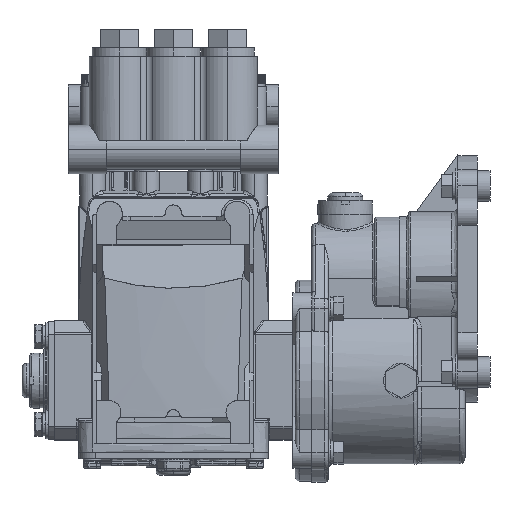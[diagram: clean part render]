
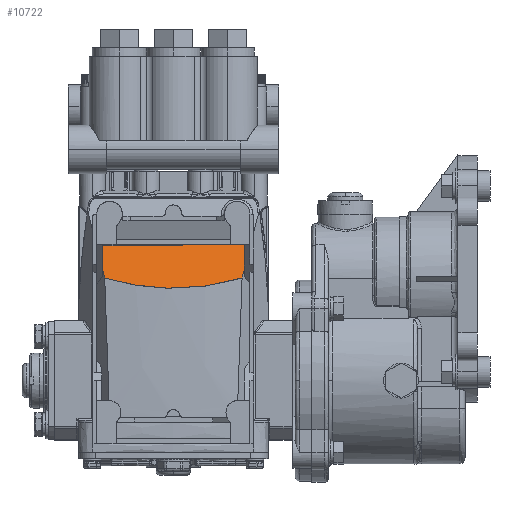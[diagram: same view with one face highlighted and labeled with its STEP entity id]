
A CAD part, front view. The second image highlights one B-rep face of the part: STEP entity #10722.
In plain terms, the highlighted planar face has unit normal (0, 0.94, -0.342).
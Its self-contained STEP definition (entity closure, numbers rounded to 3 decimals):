
#384 = LINE ( 'NONE', #119872, #68377 ) ;
#3209 = CARTESIAN_POINT ( 'NONE',  ( 188.625, 109.412, 145.675 ) ) ;
#5668 = CARTESIAN_POINT ( 'NONE',  ( 131.171, 106.278, 137.064 ) ) ;
#6720 = EDGE_CURVE ( 'NONE', #84428, #141840, #166433, .T. ) ;
#10722 = ADVANCED_FACE ( 'NONE', ( #148854 ), #162769, .T. ) ;
#11525 = EDGE_CURVE ( 'NONE', #51863, #54223, #40140, .T. ) ;
#14098 = VECTOR ( 'NONE', #49055, 1000. ) ;
#16045 = LINE ( 'NONE', #161887, #43545 ) ;
#18357 = VERTEX_POINT ( 'NONE', #141425 ) ;
#18973 = CARTESIAN_POINT ( 'NONE',  ( 101.035, 116.425, 164.941 ) ) ;
#21847 = CARTESIAN_POINT ( 'NONE',  ( 190.035, 112.068, 152.97 ) ) ;
#22422 = CARTESIAN_POINT ( 'NONE',  ( 190.035, 116.348, 164.732 ) ) ;
#23977 = DIRECTION ( 'NONE',  ( -1., 0., 0. ) ) ;
#26818 = ORIENTED_EDGE ( 'NONE', *, *, #29385, .T. ) ;
#29252 = LINE ( 'NONE', #120180, #175810 ) ;
#29385 = EDGE_CURVE ( 'NONE', #54223, #18357, #58352, .T. ) ;
#31800 = ORIENTED_EDGE ( 'NONE', *, *, #110379, .T. ) ;
#33276 = LINE ( 'NONE', #105896, #173562 ) ;
#40140 = LINE ( 'NONE', #159059, #152771 ) ;
#43545 = VECTOR ( 'NONE', #133411, 1000. ) ;
#48975 = VERTEX_POINT ( 'NONE', #22422 ) ;
#49055 = DIRECTION ( 'NONE',  ( 0., -0.342, -0.94 ) ) ;
#51863 = VERTEX_POINT ( 'NONE', #71383 ) ;
#52388 = ORIENTED_EDGE ( 'NONE', *, *, #121585, .T. ) ;
#53949 = ORIENTED_EDGE ( 'NONE', *, *, #160065, .T. ) ;
#54223 = VERTEX_POINT ( 'NONE', #18973 ) ;
#57073 = ORIENTED_EDGE ( 'NONE', *, *, #6720, .T. ) ;
#57137 = EDGE_LOOP ( 'NONE', ( #57073, #160904, #65605, #26818, #53949, #152641, #52388, #86057, #31800 ) ) ;
#57376 = DIRECTION ( 'NONE',  ( -0.233, 0.333, 0.914 ) ) ;
#58121 = VERTEX_POINT ( 'NONE', #153438 ) ;
#58352 = LINE ( 'NONE', #138153, #111514 ) ;
#60753 = CARTESIAN_POINT ( 'NONE',  ( 190.035, 111.426, 151.208 ) ) ;
#65605 = ORIENTED_EDGE ( 'NONE', *, *, #11525, .T. ) ;
#68377 = VECTOR ( 'NONE', #90721, 1000. ) ;
#71383 = CARTESIAN_POINT ( 'NONE',  ( 101.035, 111.426, 151.208 ) ) ;
#73755 = DIRECTION ( 'NONE',  ( 1., 0., 0. ) ) ;
#80320 = CARTESIAN_POINT ( 'NONE',  ( 193.508, 116.386, 164.837 ) ) ;
#83101 = VERTEX_POINT ( 'NONE', #60753 ) ;
#84428 = VERTEX_POINT ( 'NONE', #3209 ) ;
#86057 = ORIENTED_EDGE ( 'NONE', *, *, #168105, .T. ) ;
#87219 = AXIS2_PLACEMENT_3D ( 'NONE', #147349, #93308, #135470 ) ;
#90721 = DIRECTION ( 'NONE',  ( -0.233, -0.333, -0.914 ) ) ;
#93308 = DIRECTION ( 'NONE',  ( 0., 0.94, -0.342 ) ) ;
#98321 = CARTESIAN_POINT ( 'NONE',  ( 102.445, 109.412, 145.675 ) ) ;
#105561 = LINE ( 'NONE', #98321, #135399 ) ;
#105896 = CARTESIAN_POINT ( 'NONE',  ( 145.247, 117.111, 166.828 ) ) ;
#107270 = EDGE_CURVE ( 'NONE', #58121, #167689, #16045, .T. ) ;
#110379 = EDGE_CURVE ( 'NONE', #83101, #84428, #384, .T. ) ;
#111514 = VECTOR ( 'NONE', #139900, 1000. ) ;
#113734 = CARTESIAN_POINT ( 'NONE',  ( 188.625, 109.412, 145.675 ) ) ;
#115531 = EDGE_CURVE ( 'NONE', #141840, #51863, #105561, .T. ) ;
#119872 = CARTESIAN_POINT ( 'NONE',  ( 190.035, 111.426, 151.208 ) ) ;
#120180 = CARTESIAN_POINT ( 'NONE',  ( 145.247, 116.348, 164.732 ) ) ;
#121585 = EDGE_CURVE ( 'NONE', #167689, #48975, #29252, .T. ) ;
#126830 = CARTESIAN_POINT ( 'NONE',  ( 102.445, 109.412, 145.675 ) ) ;
#128007 = CARTESIAN_POINT ( 'NONE',  ( 159.898, 106.278, 137.064 ) ) ;
#133411 = DIRECTION ( 'NONE',  ( 0., -0.342, -0.94 ) ) ;
#135399 = VECTOR ( 'NONE', #57376, 1000. ) ;
#135470 = DIRECTION ( 'NONE',  ( 0., -0.342, -0.94 ) ) ;
#137216 = CARTESIAN_POINT ( 'NONE',  ( 102.445, 109.412, 145.675 ) ) ;
#138153 = CARTESIAN_POINT ( 'NONE',  ( 145.247, 116.425, 164.941 ) ) ;
#139900 = DIRECTION ( 'NONE',  ( -1., 0., 0. ) ) ;
#141425 = CARTESIAN_POINT ( 'NONE',  ( 97.535, 116.768, 165.885 ) ) ;
#141840 = VERTEX_POINT ( 'NONE', #137216 ) ;
#145982 = DIRECTION ( 'NONE',  ( 0., 0.342, 0.94 ) ) ;
#147349 = CARTESIAN_POINT ( 'NONE',  ( 193.535, 117.111, 166.828 ) ) ;
#148854 = FACE_OUTER_BOUND ( 'NONE', #57137, .T. ) ;
#152641 = ORIENTED_EDGE ( 'NONE', *, *, #107270, .T. ) ;
#152771 = VECTOR ( 'NONE', #145982, 1000. ) ;
#153438 = CARTESIAN_POINT ( 'NONE',  ( 193.535, 117.111, 166.828 ) ) ;
#159059 = CARTESIAN_POINT ( 'NONE',  ( 101.035, 112.068, 152.97 ) ) ;
#160065 = EDGE_CURVE ( 'NONE', #18357, #58121, #33276, .T. ) ;
#160904 = ORIENTED_EDGE ( 'NONE', *, *, #115531, .T. ) ;
#161887 = CARTESIAN_POINT ( 'NONE',  ( 193.535, 112.068, 152.97 ) ) ;
#162769 = PLANE ( 'NONE',  #87219 ) ;
#162813 = LINE ( 'NONE', #21847, #14098 ) ;
#166433 = B_SPLINE_CURVE_WITH_KNOTS ( 'NONE', 3,
 ( #113734, #128007, #5668, #126830 ),
 .UNSPECIFIED., .F., .F.,
 ( 4, 4 ),
 ( 0., 1. ),
 .UNSPECIFIED. ) ;
#167689 = VERTEX_POINT ( 'NONE', #80320 ) ;
#168105 = EDGE_CURVE ( 'NONE', #48975, #83101, #162813, .T. ) ;
#173562 = VECTOR ( 'NONE', #73755, 1000. ) ;
#175810 = VECTOR ( 'NONE', #23977, 1000. ) ;
